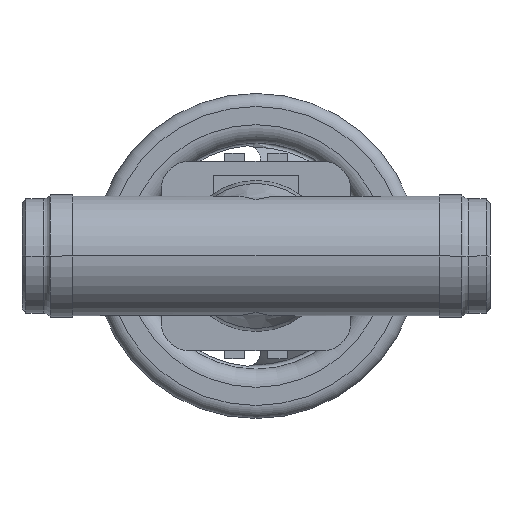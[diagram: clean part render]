
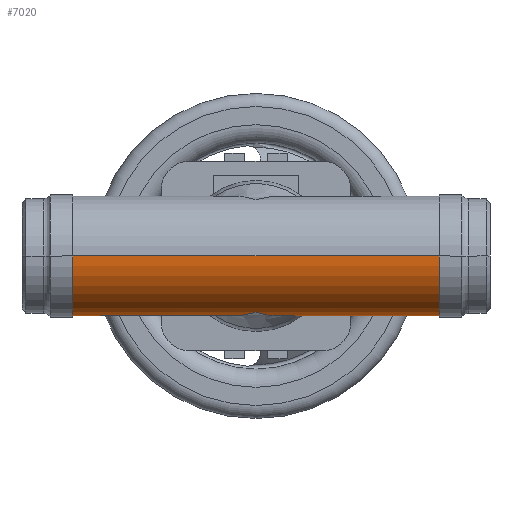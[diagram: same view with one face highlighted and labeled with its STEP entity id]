
A CAD part, front view. The second image highlights one B-rep face of the part: STEP entity #7020.
In plain terms, the highlighted cylindrical face has radius 23 mm (diameter 46 mm), a partial arc.
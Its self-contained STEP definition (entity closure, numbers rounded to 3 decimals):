
#60=CARTESIAN_POINT('',(98.181,0.,0.));
#70=DIRECTION('',(-0.686,0.728,0.));
#80=DIRECTION('',(0.728,0.686,
0.));
#90=AXIS2_PLACEMENT_3D('',#60,#70,#80);
#100=ELLIPSE('',#90,33.54,23.);
#110=CARTESIAN_POINT('',(108.422,9.649,
-20.878));
#120=VERTEX_POINT('',#110);
#130=CARTESIAN_POINT('',(90.,-7.708,-21.67));
#140=VERTEX_POINT('',#130);
#150=EDGE_CURVE('',#120,#140,#100,.T.);
#220=CARTESIAN_POINT('',(71.578,9.649,
-20.878));
#230=VERTEX_POINT('',#220);
#260=CARTESIAN_POINT('',(81.819,0.,0.));
#270=DIRECTION('',(0.686,0.728,0.));
#280=DIRECTION('',(-0.728,0.686,
0.));
#290=AXIS2_PLACEMENT_3D('',#260,#270,#280);
#300=ELLIPSE('',#290,33.54,23.);
#310=EDGE_CURVE('',#140,#230,#300,.T.);
#430=CARTESIAN_POINT('',(90.,16.351,0.));
#440=DIRECTION('',(0.,-1.,0.));
#450=DIRECTION('',(-1.,0.,0.));
#460=AXIS2_PLACEMENT_3D('',#430,#440,#450);
#470=DEGENERATE_TOROIDAL_SURFACE('',#460,9.,
20.,.T.);
#530=CARTESIAN_POINT('',(65.93,16.351,
-16.175));
#540=VERTEX_POINT('',#530);
#590=CARTESIAN_POINT('',(90.,0.,0.));
#600=DIRECTION('',(1.,0.,0.));
#610=DIRECTION('',(0.,1.,0.));
#620=AXIS2_PLACEMENT_3D('',#590,#600,#610);
#630=CYLINDRICAL_SURFACE('',#620,23.);
#640=CARTESIAN_POINT('',(90.,16.351,0.));
#650=DIRECTION('',(0.,-1.,0.));
#660=DIRECTION('',(-1.,0.,0.));
#670=AXIS2_PLACEMENT_3D('',#640,#650,#660);
#680=DEGENERATE_TOROIDAL_SURFACE('',#670,9.,
20.,.T.);
#690=CARTESIAN_POINT('',(71.578,9.649,
-20.878));
#700=CARTESIAN_POINT('',(70.998,10.195,
-20.626));
#710=CARTESIAN_POINT('',(70.448,10.752,
-20.342));
#720=CARTESIAN_POINT('',(69.924,11.314,
-20.025));
#730=CARTESIAN_POINT('',(69.4,11.877,
-19.707));
#740=CARTESIAN_POINT('',(68.901,12.448,
-19.353));
#750=CARTESIAN_POINT('',(68.428,13.018,
-18.961));
#760=CARTESIAN_POINT('',(67.956,13.589,
-18.569));
#770=CARTESIAN_POINT('',(67.51,14.158,
-18.141));
#780=CARTESIAN_POINT('',(67.094,14.716,
-17.676));
#790=CARTESIAN_POINT('',(66.677,15.275,
-17.211));
#800=CARTESIAN_POINT('',(66.289,15.823,
-16.71));
#810=CARTESIAN_POINT('',(65.93,16.351,
-16.175));
#820=B_SPLINE_CURVE_WITH_KNOTS('',3,(#690,#700,#710,#720,#730,#740,#750,
#760,#770,#780,#790,#800,#810),.UNSPECIFIED.,.F.,.F.,(4,3,3,3,4),(0.,
2.499,5.005,7.52,10.026),
.UNSPECIFIED.);
#830=SURFACE_CURVE('',#820,(#630,#680),.CURVE_3D.);
#840=EDGE_CURVE('',#230,#540,#830,.T.);
#870=CARTESIAN_POINT('',(108.422,9.649,
-20.878));
#880=CARTESIAN_POINT('',(108.958,10.154,
-20.645));
#890=CARTESIAN_POINT('',(109.473,10.672,
-20.383));
#900=CARTESIAN_POINT('',(109.966,11.197,
-20.09));
#910=CARTESIAN_POINT('',(110.459,11.722,
-19.798));
#920=CARTESIAN_POINT('',(110.929,12.252,
-19.475));
#930=CARTESIAN_POINT('',(111.374,12.782,
-19.121));
#940=CARTESIAN_POINT('',(111.819,13.311,
-18.768));
#950=CARTESIAN_POINT('',(112.24,13.838,
-18.383));
#960=CARTESIAN_POINT('',(112.635,14.357,
-17.969));
#970=CARTESIAN_POINT('',(113.031,14.876,
-17.554));
#980=CARTESIAN_POINT('',(113.4,15.384,
-17.111));
#990=CARTESIAN_POINT('',(113.749,15.885,
-16.634));
#1000=B_SPLINE_CURVE_WITH_KNOTS('',3,(#870,#880,#890,#900,#910,#920,#930
,#940,#950,#960,#970,#980,#990),.UNSPECIFIED.,.F.,.F.,(4,3,3,3,4),(0.,
2.326,4.657,6.982,9.298),
.UNSPECIFIED.);
#1010=SURFACE_CURVE('',#1000,(#470,#630),.CURVE_3D.);
#1020=CARTESIAN_POINT('',(113.749,15.885,
-16.634));
#1030=VERTEX_POINT('',#1020);
#1040=EDGE_CURVE('',#120,#1030,#1010,.T.);
#6180=CARTESIAN_POINT('',(90.,-23.,0.));
#6190=DIRECTION('',(1.,0.,0.));
#6200=VECTOR('',#6190,1.);
#6210=LINE('',#6180,#6200);
#6220=CARTESIAN_POINT('',(19.58,-23.,0.));
#6230=VERTEX_POINT('',#6220);
#6240=CARTESIAN_POINT('',(160.42,-23.,0.));
#6250=VERTEX_POINT('',#6240);
#6260=EDGE_CURVE('',#6230,#6250,#6210,.T.);
#6270=ORIENTED_EDGE('',*,*,#6260,.F.);
#6280=CARTESIAN_POINT('',(160.42,0.,0.));
#6290=DIRECTION('',(-1.,0.,0.));
#6300=DIRECTION('',(0.,1.,0.));
#6310=AXIS2_PLACEMENT_3D('',#6280,#6290,#6300);
#6320=CIRCLE('',#6310,23.);
#6330=CARTESIAN_POINT('',(160.42,23.,0.));
#6340=VERTEX_POINT('',#6330);
#6350=EDGE_CURVE('',#6340,#6250,#6320,.T.);
#6360=ORIENTED_EDGE('',*,*,#6350,.T.);
#6370=CARTESIAN_POINT('',(90.,23.,0.));
#6380=DIRECTION('',(1.,0.,0.));
#6390=VECTOR('',#6380,1.);
#6400=LINE('',#6370,#6390);
#6410=CARTESIAN_POINT('',(158.539,23.,0.));
#6420=VERTEX_POINT('',#6410);
#6430=EDGE_CURVE('',#6420,#6340,#6400,.T.);
#6440=ORIENTED_EDGE('',*,*,#6430,.T.);
#6450=CARTESIAN_POINT('',(147.814,0.,0.));
#6460=DIRECTION('',(0.906,-0.423,
0.));
#6470=DIRECTION('',(0.423,0.906,
0.));
#6480=AXIS2_PLACEMENT_3D('',#6450,#6460,#6470);
#6490=ELLIPSE('',#6480,25.378,23.);
#6500=CARTESIAN_POINT('',(147.814,0.,-23.));
#6510=VERTEX_POINT('',#6500);
#6520=EDGE_CURVE('',#6510,#6420,#6490,.T.);
#6530=ORIENTED_EDGE('',*,*,#6520,.T.);
#6540=CARTESIAN_POINT('',(147.814,0.,0.));
#6550=DIRECTION('',(-0.423,-0.906,0.));
#6560=DIRECTION('',(0.906,-0.423,
0.));
#6570=AXIS2_PLACEMENT_3D('',#6540,#6550,#6560);
#6580=ELLIPSE('',#6570,54.423,23.);
#6590=EDGE_CURVE('',#1030,#6510,#6580,.T.);
#6600=ORIENTED_EDGE('',*,*,#6590,.T.);
#6610=ORIENTED_EDGE('',*,*,#1040,.T.);
#6620=ORIENTED_EDGE('',*,*,#150,.F.);
#6630=ORIENTED_EDGE('',*,*,#310,.F.);
#6640=ORIENTED_EDGE('',*,*,#840,.F.);
#6650=CARTESIAN_POINT('',(90.,36.825,0.));
#6660=DIRECTION('',(0.,1.,0.));
#6670=DIRECTION('',(0.,0.,1.));
#6680=AXIS2_PLACEMENT_3D('',#6650,#6660,#6670);
#6690=CYLINDRICAL_SURFACE('',#6680,29.);
#6700=CARTESIAN_POINT('',(65.93,16.351,
-16.175));
#6710=CARTESIAN_POINT('',(65.256,17.344,
-15.172));
#6720=CARTESIAN_POINT('',(64.603,18.257,
-14.063));
#6730=CARTESIAN_POINT('',(64.008,19.068,
-12.861));
#6740=CARTESIAN_POINT('',(63.413,19.879,
-11.659));
#6750=CARTESIAN_POINT('',(62.88,20.582,
-10.374));
#6760=CARTESIAN_POINT('',(62.429,21.17,
-8.991));
#6770=CARTESIAN_POINT('',(61.978,21.757,
-7.607));
#6780=CARTESIAN_POINT('',(61.615,22.22,
-6.136));
#6790=CARTESIAN_POINT('',(61.371,22.531,
-4.622));
#6800=CARTESIAN_POINT('',(61.127,22.841,
-3.111));
#6810=CARTESIAN_POINT('',(61.,23.,-1.558));
#6820=CARTESIAN_POINT('',(61.,23.,0.));
#6830=B_SPLINE_CURVE_WITH_KNOTS('',3,(#6700,#6710,#6720,#6730,#6740,
#6750,#6760,#6770,#6780,#6790,#6800,#6810,#6820),.UNSPECIFIED.,.F.,.F.,(
4,3,3,3,4),(0.,4.703,9.39,14.098,
18.771),.UNSPECIFIED.);
#6840=SURFACE_CURVE('',#6830,(#630,#6690),.CURVE_3D.);
#6850=CARTESIAN_POINT('',(61.,23.,0.));
#6860=VERTEX_POINT('',#6850);
#6870=EDGE_CURVE('',#540,#6860,#6840,.T.);
#6880=ORIENTED_EDGE('',*,*,#6870,.F.);
#6890=CARTESIAN_POINT('',(19.58,23.,0.));
#6900=VERTEX_POINT('',#6890);
#6910=EDGE_CURVE('',#6900,#6860,#6400,.T.);
#6920=ORIENTED_EDGE('',*,*,#6910,.T.);
#6930=CARTESIAN_POINT('',(19.58,0.,0.));
#6940=DIRECTION('',(-1.,0.,0.));
#6950=DIRECTION('',(0.,1.,0.));
#6960=AXIS2_PLACEMENT_3D('',#6930,#6940,#6950);
#6970=CIRCLE('',#6960,23.);
#6980=EDGE_CURVE('',#6900,#6230,#6970,.T.);
#6990=ORIENTED_EDGE('',*,*,#6980,.F.);
#7000=EDGE_LOOP('',(#6990,#6920,#6880,#6640,#6630,#6620,#6610,#6600,
#6530,#6440,#6360,#6270));
#7010=FACE_OUTER_BOUND('',#7000,.T.);
#7020=ADVANCED_FACE('',(#7010),#630,.T.);
